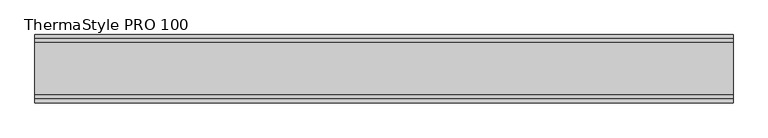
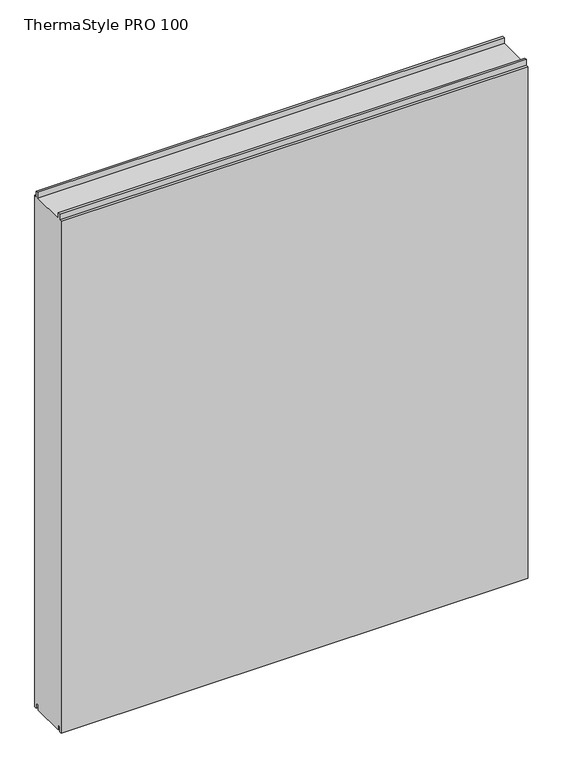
"""IFC4 building model written with IfcOpenShell, lengths in millimetres: plate geometry, Europanels_ThermaStyle PRO_Hz : ThermaStyle PRO 100."""

from ifc_helpers import new_model, si_unit, frame, origin, place, context, project, spatial, polyline, outline, extrude, source, transform, mapped, element, save


def thermastyle_pro_100_a7823f5c(model_context):
    return source(origin(), model_context, "Body", "SweptSolid", [
        extrude(outline(polyline([(50.0, 1189.0), (50.0, 1.0), (45.0, 1.0), (45.0, 12.9552971), (37.8855682, 12.9552971), (37.8855682, 1.0), (-37.8855682, 1.0), (-37.8855682, 12.9552971), (-45.0, 12.9552971), (-45.0, 1.0), (-50.0, 1.0), (-50.0, 1189.0), (-44.0, 1189.0), (-44.0, 1201.9631544), (-38.8855682, 1201.9631544), (-38.8855682, 1189.0), (38.8855682, 1189.0), (38.8855682, 1201.9631544), (44.0, 1201.9631544), (44.0, 1189.0), (50.0, 1189.0)])), frame((-512.5, 0.0, 0.0), z_axis=(1.0, 0.0, 0.0), x_axis=(0.0, 1.0, 0.0)), (0.0, 0.0, 1.0), 1025.0),
    ])


if __name__ == "__main__":
    model = new_model("IFC4")
    model_context = context("Model", 3, world=origin())
    ifc_project = project(units=[si_unit("LENGTHUNIT", "METRE", prefix="MILLI")], contexts=[model_context])
    site = spatial("IfcSite", under=ifc_project)
    building = spatial("IfcBuilding", under=site)
    placement = place(None, origin())
    thermastyle_pro_100_shape = thermastyle_pro_100_a7823f5c(model_context)
    element("IfcPlate", 1, ObjectType="Europanels_ThermaStyle PRO_Hz : ThermaStyle PRO 100", at=placement, inside=building, context=model_context, shape_type="MappedRepresentation", body=[
        mapped(thermastyle_pro_100_shape, transform((0.0, 0.0, 0.0), x_axis=(1.0, 0.0, 0.0), y_axis=(0.0, 1.0, 0.0), z_axis=(0.0, 0.0, 1.0))),
    ])
    save(model, "model.ifc")
